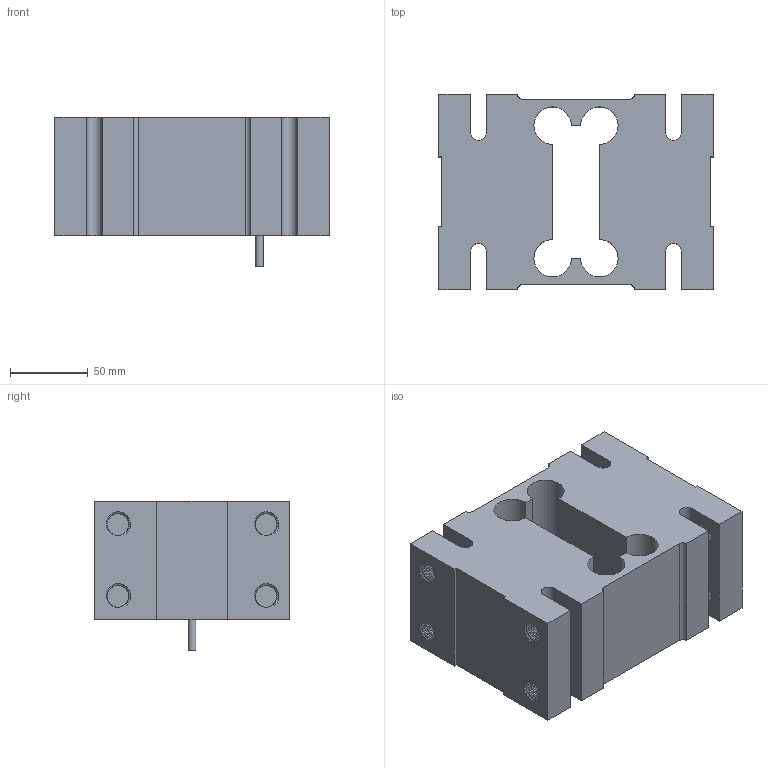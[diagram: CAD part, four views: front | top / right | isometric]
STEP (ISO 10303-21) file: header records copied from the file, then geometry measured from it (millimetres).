
FILE_DESCRIPTION(/* description */ (''),/* implementation_level */ '2;1');
FILE_NAME(/* name */ 'C:/Users/fardi/Dropbox/Anyload/Load Cell Models/3D Drawing/108/108DA/108DA-(500-2000)kg v2.step',/* time_stamp */ '2020-01-27T15:43:40-08:00',/* author */ (''),/* organization */ (''),/* preprocessor_version */ 'ST-DEVELOPER v18',/* originating_system */ 'Autodesk Translation Framework v8.12.0.6',/* authorisation */ '');
FILE_SCHEMA (('AUTOMOTIVE_DESIGN { 1 0 10303 214 3 1 1 }'));
Length unit declared in the file: millimetre
Products named in the file (1): 108DA-(500-2000)kg
Bounding box: 176 x 125 x 96 mm (x, y, z)
Volume: 1217032 mm3; surface area: 135005.4 mm2
Topology: 1 solids, 1 shells, 264 faces, 751 edges, 490 vertices
Faces by surface type: cylinder 213, plane 35, bspline 16
Full cylindrical faces by diameter (mm): 5.1 x1, 14.023 x72, 16.25 x96
Entity records: 29398 total; most frequent: CARTESIAN_POINT 23242, ORIENTED_EDGE 1502, DIRECTION 923, EDGE_CURVE 751, VERTEX_POINT 490, B_SPLINE_CURVE_WITH_KNOTS 392, AXIS2_PLACEMENT_3D 315, LINE 293
